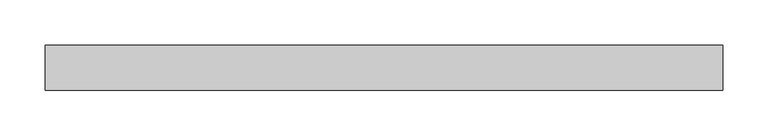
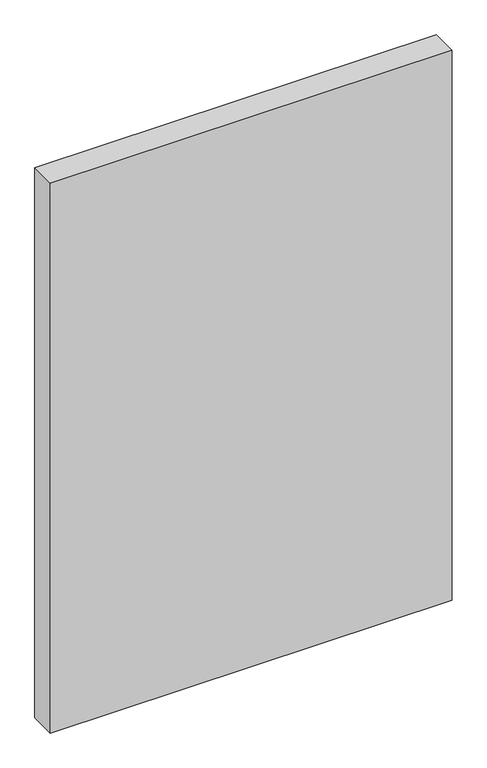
"""IFC4 building model written with IfcOpenShell, lengths in millimetres: plate geometry, Системная панель : Стекло(50мм)."""

from ifc_helpers import new_model, si_unit, origin, origin_with_axes, place, context, project, spatial, polyline, outline, extrude, source, transform, mapped, element, save


def plate_732bb6f4(model_context):
    return source(origin(), model_context, "Body", "SweptSolid", [
        extrude(outline(polyline([(375.0, -25.0), (-375.0, -25.0), (-375.0, 25.0), (375.0, 25.0), (375.0, -25.0)])), origin_with_axes(), (0.0, 0.0, 1.0), 1085.0),
    ])


if __name__ == "__main__":
    model = new_model("IFC4")
    model_context = context("Model", 3, world=origin())
    ifc_project = project(units=[si_unit("LENGTHUNIT", "METRE", prefix="MILLI")], contexts=[model_context])
    site = spatial("IfcSite", under=ifc_project)
    building = spatial("IfcBuilding", under=site)
    placement = place(None, origin())
    plate_shape = plate_732bb6f4(model_context)
    element("IfcPlate", 1, ObjectType="Системная панель : Стекло(50мм)", at=placement, inside=building, context=model_context, shape_type="MappedRepresentation", body=[
        mapped(plate_shape, transform((0.0, 0.0, 0.0), x_axis=(1.0, 0.0, 0.0), y_axis=(0.0, 1.0, 0.0), z_axis=(0.0, 0.0, 1.0))),
    ])
    save(model, "model.ifc")
